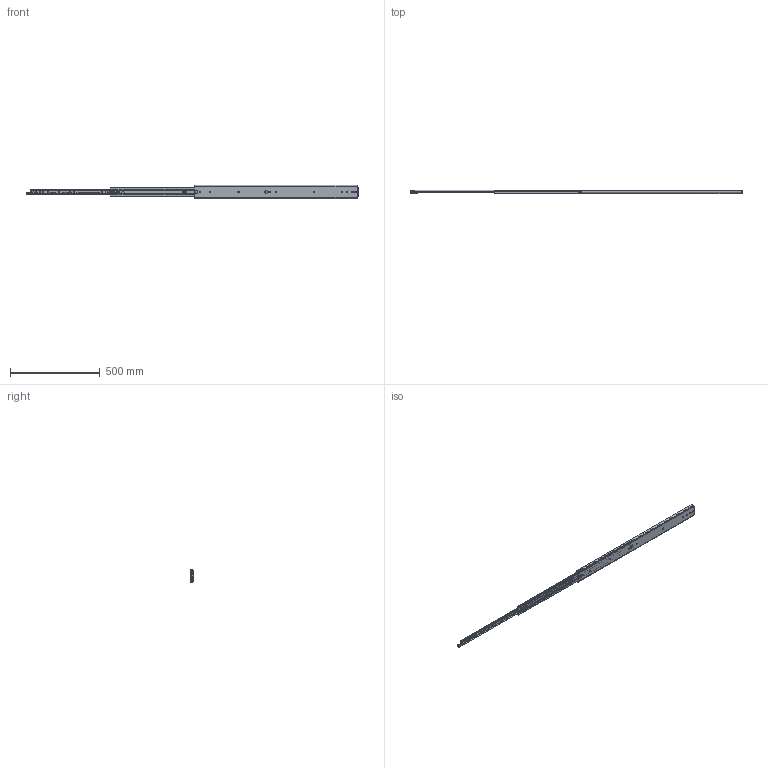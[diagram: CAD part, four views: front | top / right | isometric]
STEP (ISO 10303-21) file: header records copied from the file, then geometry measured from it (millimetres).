
FILE_DESCRIPTION((''),'2;1');
FILE_NAME('DG-76-3S-36ZUO_ASM','2023-05-10T',('jishu015'),(''),'PRO/ENGINEER BY PARAMETRIC TECHNOLOGY CORPORATION, 2010280','PRO/ENGINEER BY PARAMETRIC TECHNOLOGY CORPORATION, 2010280','');
FILE_SCHEMA(('CONFIG_CONTROL_DESIGN'));
Products named in the file (29): KP-76-04WAIKE-1816________; 1076-WAIKEZIDANJIAO16________; WAIK16_________ASM; 1076XIAOZHUTIAO-22516________; 16________; 1076XIAOZHUTIAO-17516_________ASM; KP-76-04ZHONGGUI1816________; 76CHANGGUIZHONGGUIJIAO1621; 3X6WODIN16________; ZHONGGUIBAIKOU16________; PJ-76-30_______; PJ-76-03_______; 76-XIAOZHUJIA-11_______; GANGZHU-XIAO_______; ZHUJIA-XIAO________ASM; ZHONGGUI6_________ASM; KP-76-04NEIGUI1816________; PJ-76-31_______; DAOGPIAN16________; 1053-3SBANJ01_______; JIAO-11_______; 76XINSUOKOU_______; PJ-338_______; PJ-356_______; PJ-357_______; PJ-336_______; M4X4_______; NEIGUI16_________ASM; DG-76-3S-36ZUO_ASM
Assembly tree (76 placements, depth 4):
  DG-76-3S-36ZUO_ASM
    WAIK16_________ASM
      KP-76-04WAIKE-1816________
      1076-WAIKEZIDANJIAO16________  x2
    1076XIAOZHUTIAO-17516_________ASM  x2
      1076XIAOZHUTIAO-22516________
      16________
    ZHONGGUI6_________ASM
      KP-76-04ZHONGGUI1816________
      76CHANGGUIZHONGGUIJIAO1621
      3X6WODIN16________
      ZHONGGUIBAIKOU16________
      PJ-76-30_______
      PJ-76-03_______
      ZHUJIA-XIAO________ASM
        76-XIAOZHUJIA-11_______
        GANGZHU-XIAO_______  x32
    NEIGUI16_________ASM
      KP-76-04NEIGUI1816________
      PJ-76-31_______
      DAOGPIAN16________
      1053-3SBANJ01_______
      JIAO-11_______
      76XINSUOKOU_______
      PJ-338_______
      PJ-356_______
      PJ-357_______
      PJ-336_______
      M4X4_______
Bounding box: 1854.72 x 20.7 x 75.3 mm (x, y, z)
Volume: 601516.1 mm3; surface area: 578543.6 mm2
Topology: 88 solids, 88 shells, 2225 faces, 6714 edges, 4252 vertices
Faces by surface type: plane 1145, cylinder 818, sphere 135, bspline 60, cone 28, extrusion 23, torus 16
Entity records: 72354 total; most frequent: CARTESIAN_POINT 19378, ORIENTED_EDGE 11544, DIRECTION 10531, EDGE_CURVE 5772, VERTEX_POINT 3760, AXIS2_PLACEMENT_3D 3622, VECTOR 3287, LINE 3264
